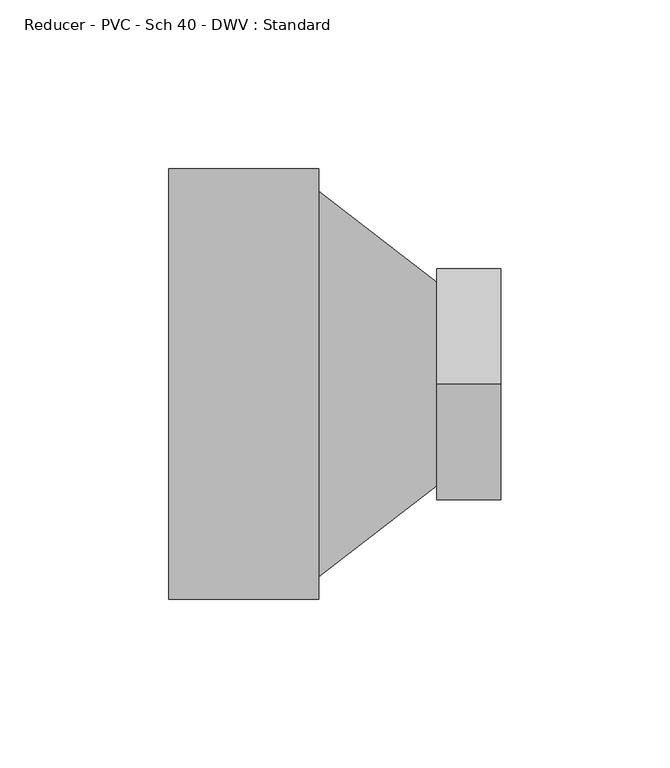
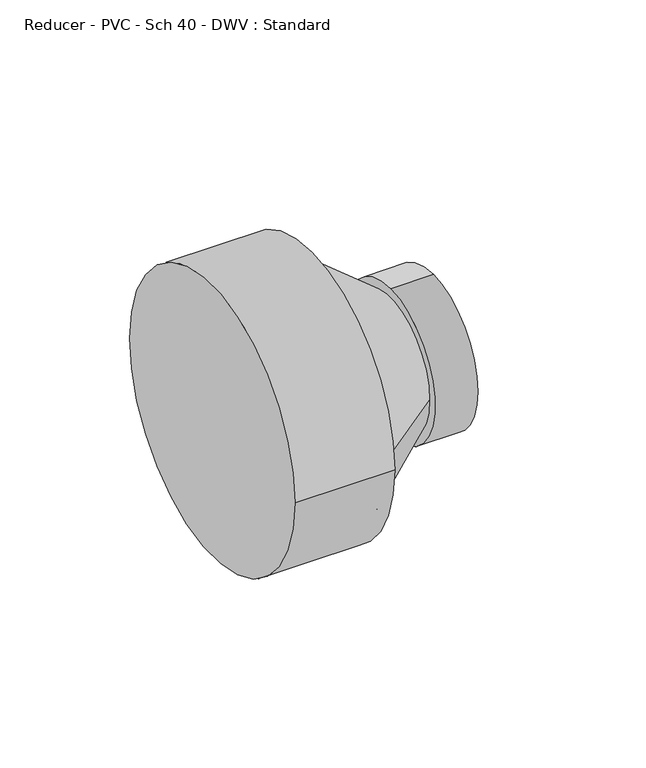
"""IFC4 building model written with IfcOpenShell, lengths in millimetres: pipe fitting geometry, Reducer - PVC - Sch 40 - DWV : Standard."""

from ifc_helpers import new_model, si_unit, frame, origin, place, context, project, spatial, polyline, circle_curve, source, transform, mapped, element, save
from ifc_brep_helpers import plane_surface, cylinder_surface, revolved_surface, advanced_brep


def reducer_pvc_sch_40_dwv_standard_07db09cb(model_context):
    return source(origin(), model_context, "Body", "AdvancedBrep", [
        advanced_brep(
        [(0.0, -63.754, 0.0), (0.0, 63.754, 0.0), (44.45, -63.754, 0.0), (44.45, 63.754, 0.0), (44.45, 57.15, 0.0), (44.45, -57.15, 0.0), (79.375, 30.1625, 0.0), (79.375, -30.1625, 0.0), (79.375, 0.0, 34.3154), (79.375, 0.0, -34.3154), (98.425, 0.0, 34.3154), (98.425, 0.0, -34.3154)],
        [
            (0, 1, circle_curve(frame((0.0, 0.0, 0.0), z_axis=(-1.0, 0.0, 0.0), x_axis=(0.0, 1.0, 0.0)), 63.754)),
            (1, 0, circle_curve(frame((0.0, 0.0, 0.0), z_axis=(-1.0, 0.0, 0.0), x_axis=(0.0, 1.0, 0.0)), 63.754)),
            (2, 3, circle_curve(frame((44.45, 0.0, 0.0), z_axis=(1.0, 0.0, 0.0), x_axis=(0.0, 1.0, 0.0)), 63.754)),
            (3, 2, circle_curve(frame((44.45, 0.0, 0.0), z_axis=(1.0, 0.0, 0.0), x_axis=(0.0, 1.0, 0.0)), 63.754)),
            (4, 5, circle_curve(frame((44.45, 0.0, 0.0), z_axis=(-1.0, 0.0, 0.0), x_axis=(0.0, -1.0, 0.0)), 57.15)),
            (5, 4, circle_curve(frame((44.45, 0.0, 0.0), z_axis=(-1.0, 0.0, 0.0), x_axis=(0.0, 1.0, 0.0)), 57.15)),
            (0, 2),
            (3, 1),
            (4, 6),
            (6, 7, circle_curve(frame((79.375, 0.0, 0.0), z_axis=(-1.0, 0.0, 0.0), x_axis=(0.0, -1.0, 0.0)), 30.1625)),
            (7, 5),
            (7, 6, circle_curve(frame((79.375, 0.0, 0.0), z_axis=(-1.0, 0.0, 0.0), x_axis=(0.0, 1.0, 0.0)), 30.1625)),
            (8, 9, circle_curve(frame((79.375, 0.0, 0.0), z_axis=(-1.0, 0.0, 0.0), x_axis=(0.0, 0.0, -1.0)), 34.3154)),
            (9, 8, circle_curve(frame((79.375, 0.0, 0.0), z_axis=(-1.0, 0.0, 0.0), x_axis=(0.0, 0.0, -1.0)), 34.3154)),
            (10, 11, circle_curve(frame((98.425, 0.0, 0.0), z_axis=(1.0, 0.0, 0.0), x_axis=(0.0, 0.0, -1.0)), 34.3154)),
            (11, 10, circle_curve(frame((98.425, 0.0, 0.0), z_axis=(1.0, 0.0, 0.0), x_axis=(0.0, 0.0, -1.0)), 34.3154)),
            (8, 10),
            (11, 9),
        ],
        [
            plane_surface(frame((0.0, 0.0, 0.0), z_axis=(-1.0, 0.0, 0.0), x_axis=(0.0, 0.0, 1.0))),
            plane_surface(frame((44.45, 0.0, 0.0), z_axis=(1.0, 0.0, 0.0), x_axis=(0.0, 0.0, 1.0))),
            cylinder_surface(frame((0.0, 0.0, 0.0), z_axis=(-1.0, 0.0, 0.0), x_axis=(0.0, 1.0, 0.0)), 63.754),
            revolved_surface(polyline([(79.375, 30.162499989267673, 0.0), (44.45, 57.15, 0.0)]), (118.4088235, 0.0, 0.0), (-1.0, 0.0, 0.0)),
            plane_surface(frame((79.375, 0.0, 0.0), z_axis=(-1.0, 0.0, 0.0), x_axis=(0.0, 1.0, 0.0))),
            plane_surface(frame((98.425, 0.0, 0.0), z_axis=(1.0, 0.0, 0.0), x_axis=(0.0, 1.0, 0.0))),
            cylinder_surface(frame((79.375, 0.0, 0.0), z_axis=(-1.0, 0.0, 0.0), x_axis=(0.0, 0.0, -1.0)), 34.3154),
        ],
        [
            (0, [[1, 2]]),
            (1, [[3, 4], [5, 6]]),
            (2, [[-1, 7, -4, 8]]),
            (2, [[-2, -8, -3, -7]]),
            (3, [[9, 10, 11, -5]]),
            (3, [[-9, -6, -11, 12]]),
            (4, [[13, 14], [-10, -12]]),
            (5, [[15, 16]]),
            (6, [[-13, 17, -16, 18]]),
            (6, [[-14, -18, -15, -17]]),
        ],
    ),
    ])


if __name__ == "__main__":
    model = new_model("IFC4")
    model_context = context("Model", 3, world=origin())
    ifc_project = project(units=[si_unit("LENGTHUNIT", "METRE", prefix="MILLI")], contexts=[model_context])
    site = spatial("IfcSite", under=ifc_project)
    building = spatial("IfcBuilding", under=site)
    placement = place(None, origin())
    reducer_pvc_sch_40_dwv_standard_shape = reducer_pvc_sch_40_dwv_standard_07db09cb(model_context)
    element("IfcPipeFitting", 1, ObjectType="Reducer - PVC - Sch 40 - DWV : Standard", at=placement, inside=building, context=model_context, shape_type="MappedRepresentation", body=[
        mapped(reducer_pvc_sch_40_dwv_standard_shape, transform((0.0, 0.0, 0.0), x_axis=(1.0, 0.0, 0.0), y_axis=(0.0, 1.0, 0.0), z_axis=(0.0, 0.0, 1.0))),
    ])
    save(model, "model.ifc")
